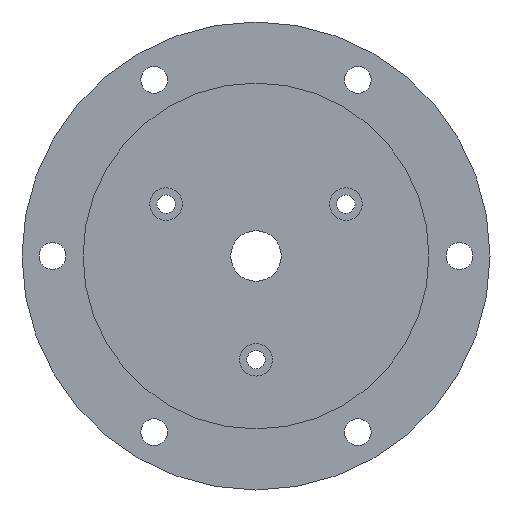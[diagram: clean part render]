
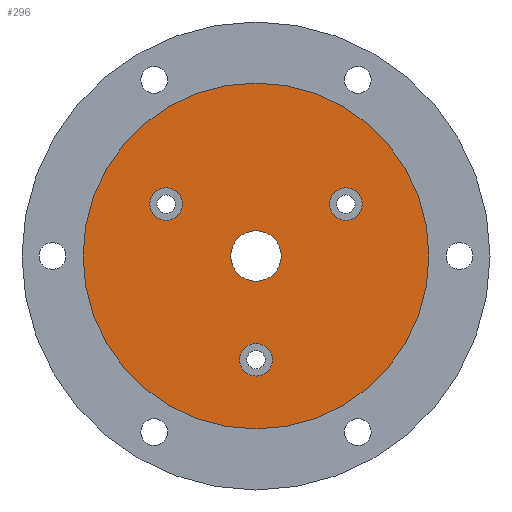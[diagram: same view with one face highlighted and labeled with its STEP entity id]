
A CAD part, left-side view. The second image highlights one B-rep face of the part: STEP entity #296.
In plain terms, the highlighted planar face has unit normal (-1, 0, 0).
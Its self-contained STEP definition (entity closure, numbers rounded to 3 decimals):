
#7 = CIRCLE ( 'NONE', #756, 4. ) ;
#22 = CIRCLE ( 'NONE', #815, 4. ) ;
#85 = CIRCLE ( 'NONE', #915, 4. ) ;
#91 = AXIS2_PLACEMENT_3D ( 'NONE', #1580, #1315, #762 ) ;
#108 = DIRECTION ( 'NONE',  ( 0., 0., 1. ) ) ;
#121 = CIRCLE ( 'NONE', #614, 4. ) ;
#170 = CARTESIAN_POINT ( 'NONE',  ( 0., -22.084, 16.75 ) ) ;
#264 = CARTESIAN_POINT ( 'NONE',  ( 0., 22.084, 8.75 ) ) ;
#270 = CARTESIAN_POINT ( 'NONE',  ( 0., 22.084, 12.75 ) ) ;
#296 = ADVANCED_FACE ( 'NONE', ( #486, #484, #476, #466, #461 ), #1655, .F. ) ;
#310 = CARTESIAN_POINT ( 'NONE',  ( 0., 0., 6.2 ) ) ;
#356 = CARTESIAN_POINT ( 'NONE',  ( 0., 0., -25.5 ) ) ;
#461 = FACE_OUTER_BOUND ( 'NONE', #1582, .T. ) ;
#466 = FACE_BOUND ( 'NONE', #1055, .T. ) ;
#476 = FACE_BOUND ( 'NONE', #1202, .T. ) ;
#484 = FACE_BOUND ( 'NONE', #1031, .T. ) ;
#486 = FACE_BOUND ( 'NONE', #1187, .T. ) ;
#497 = CARTESIAN_POINT ( 'NONE',  ( 0., 0., -29.5 ) ) ;
#503 = DIRECTION ( 'NONE',  ( -1., 0., 0. ) ) ;
#519 = DIRECTION ( 'NONE',  ( 0., 0., 1. ) ) ;
#522 = DIRECTION ( 'NONE',  ( -1., 0., 0. ) ) ;
#538 = VERTEX_POINT ( 'NONE', #1479 ) ;
#540 = ORIENTED_EDGE ( 'NONE', *, *, #1633, .F. ) ;
#543 = CIRCLE ( 'NONE', #674, 6.2 ) ;
#587 = AXIS2_PLACEMENT_3D ( 'NONE', #974, #1511, #814 ) ;
#589 = AXIS2_PLACEMENT_3D ( 'NONE', #1370, #986, #519 ) ;
#598 = ORIENTED_EDGE ( 'NONE', *, *, #1628, .F. ) ;
#601 = AXIS2_PLACEMENT_3D ( 'NONE', #1726, #830, #673 ) ;
#604 = AXIS2_PLACEMENT_3D ( 'NONE', #270, #1550, #824 ) ;
#614 = AXIS2_PLACEMENT_3D ( 'NONE', #1721, #1253, #1543 ) ;
#623 = ORIENTED_EDGE ( 'NONE', *, *, #1579, .T. ) ;
#649 = VERTEX_POINT ( 'NONE', #1036 ) ;
#657 = DIRECTION ( 'NONE',  ( 0., 0., 1. ) ) ;
#672 = CARTESIAN_POINT ( 'NONE',  ( 0., -22.084, 8.75 ) ) ;
#673 = DIRECTION ( 'NONE',  ( 0., 0., 1. ) ) ;
#674 = AXIS2_PLACEMENT_3D ( 'NONE', #1345, #725, #1780 ) ;
#715 = ORIENTED_EDGE ( 'NONE', *, *, #1483, .F. ) ;
#725 = DIRECTION ( 'NONE',  ( -1., 0., 0. ) ) ;
#729 = AXIS2_PLACEMENT_3D ( 'NONE', #1418, #503, #657 ) ;
#747 = VERTEX_POINT ( 'NONE', #887 ) ;
#756 = AXIS2_PLACEMENT_3D ( 'NONE', #356, #522, #991 ) ;
#757 = CARTESIAN_POINT ( 'NONE',  ( 0., 22.084, 12.75 ) ) ;
#762 = DIRECTION ( 'NONE',  ( 0., 0., -1. ) ) ;
#809 = CIRCLE ( 'NONE', #729, 42.5 ) ;
#811 = VERTEX_POINT ( 'NONE', #672 ) ;
#814 = DIRECTION ( 'NONE',  ( 0., 0., 1. ) ) ;
#815 = AXIS2_PLACEMENT_3D ( 'NONE', #757, #1515, #1607 ) ;
#824 = DIRECTION ( 'NONE',  ( 0., 0., 1. ) ) ;
#826 = ORIENTED_EDGE ( 'NONE', *, *, #1521, .F. ) ;
#830 = DIRECTION ( 'NONE',  ( -1., 0., 0. ) ) ;
#848 = ORIENTED_EDGE ( 'NONE', *, *, #1644, .T. ) ;
#887 = CARTESIAN_POINT ( 'NONE',  ( 0., 0., -6.2 ) ) ;
#891 = ORIENTED_EDGE ( 'NONE', *, *, #1563, .F. ) ;
#915 = AXIS2_PLACEMENT_3D ( 'NONE', #1760, #1333, #108 ) ;
#943 = ORIENTED_EDGE ( 'NONE', *, *, #1637, .F. ) ;
#958 = VERTEX_POINT ( 'NONE', #310 ) ;
#974 = CARTESIAN_POINT ( 'NONE',  ( 0., 0., 0. ) ) ;
#979 = CARTESIAN_POINT ( 'NONE',  ( 0., 22.084, 16.75 ) ) ;
#986 = DIRECTION ( 'NONE',  ( -1., 0., 0. ) ) ;
#990 = CARTESIAN_POINT ( 'NONE',  ( 0., 0., 42.5 ) ) ;
#991 = DIRECTION ( 'NONE',  ( 0., 0., 1. ) ) ;
#997 = VERTEX_POINT ( 'NONE', #264 ) ;
#1031 = EDGE_LOOP ( 'NONE', ( #943, #826 ) ) ;
#1036 = CARTESIAN_POINT ( 'NONE',  ( 0., 0., -21.5 ) ) ;
#1038 = VERTEX_POINT ( 'NONE', #170 ) ;
#1055 = EDGE_LOOP ( 'NONE', ( #1237, #598 ) ) ;
#1128 = ORIENTED_EDGE ( 'NONE', *, *, #1638, .F. ) ;
#1170 = VERTEX_POINT ( 'NONE', #990 ) ;
#1187 = EDGE_LOOP ( 'NONE', ( #540, #715 ) ) ;
#1202 = EDGE_LOOP ( 'NONE', ( #1128, #891 ) ) ;
#1237 = ORIENTED_EDGE ( 'NONE', *, *, #1643, .F. ) ;
#1253 = DIRECTION ( 'NONE',  ( -1., 0., 0. ) ) ;
#1315 = DIRECTION ( 'NONE',  ( 1., 0., 0. ) ) ;
#1333 = DIRECTION ( 'NONE',  ( -1., 0., 0. ) ) ;
#1345 = CARTESIAN_POINT ( 'NONE',  ( 0., 0., 0. ) ) ;
#1370 = CARTESIAN_POINT ( 'NONE',  ( 0., 0., 0. ) ) ;
#1386 = VERTEX_POINT ( 'NONE', #497 ) ;
#1403 = VERTEX_POINT ( 'NONE', #979 ) ;
#1418 = CARTESIAN_POINT ( 'NONE',  ( 0., 0., 0. ) ) ;
#1479 = CARTESIAN_POINT ( 'NONE',  ( 0., 0., -42.5 ) ) ;
#1483 = EDGE_CURVE ( 'NONE', #811, #1038, #85, .T. ) ;
#1511 = DIRECTION ( 'NONE',  ( -1., 0., 0. ) ) ;
#1515 = DIRECTION ( 'NONE',  ( -1., 0., 0. ) ) ;
#1521 = EDGE_CURVE ( 'NONE', #997, #1403, #22, .T. ) ;
#1543 = DIRECTION ( 'NONE',  ( 0., 0., 1. ) ) ;
#1550 = DIRECTION ( 'NONE',  ( -1., 0., 0. ) ) ;
#1563 = EDGE_CURVE ( 'NONE', #1386, #649, #7, .T. ) ;
#1579 = EDGE_CURVE ( 'NONE', #1170, #538, #809, .T. ) ;
#1580 = CARTESIAN_POINT ( 'NONE',  ( 0., 42.5, 0. ) ) ;
#1582 = EDGE_LOOP ( 'NONE', ( #623, #848 ) ) ;
#1607 = DIRECTION ( 'NONE',  ( 0., 0., 1. ) ) ;
#1628 = EDGE_CURVE ( 'NONE', #747, #958, #543, .T. ) ;
#1633 = EDGE_CURVE ( 'NONE', #1038, #811, #121, .T. ) ;
#1637 = EDGE_CURVE ( 'NONE', #1403, #997, #1803, .T. ) ;
#1638 = EDGE_CURVE ( 'NONE', #649, #1386, #1798, .T. ) ;
#1643 = EDGE_CURVE ( 'NONE', #958, #747, #1792, .T. ) ;
#1644 = EDGE_CURVE ( 'NONE', #538, #1170, #1790, .T. ) ;
#1655 = PLANE ( 'NONE',  #91 ) ;
#1721 = CARTESIAN_POINT ( 'NONE',  ( 0., -22.084, 12.75 ) ) ;
#1726 = CARTESIAN_POINT ( 'NONE',  ( 0., 0., -25.5 ) ) ;
#1760 = CARTESIAN_POINT ( 'NONE',  ( 0., -22.084, 12.75 ) ) ;
#1780 = DIRECTION ( 'NONE',  ( 0., 0., 1. ) ) ;
#1790 = CIRCLE ( 'NONE', #587, 42.5 ) ;
#1792 = CIRCLE ( 'NONE', #589, 6.2 ) ;
#1798 = CIRCLE ( 'NONE', #601, 4. ) ;
#1803 = CIRCLE ( 'NONE', #604, 4. ) ;
